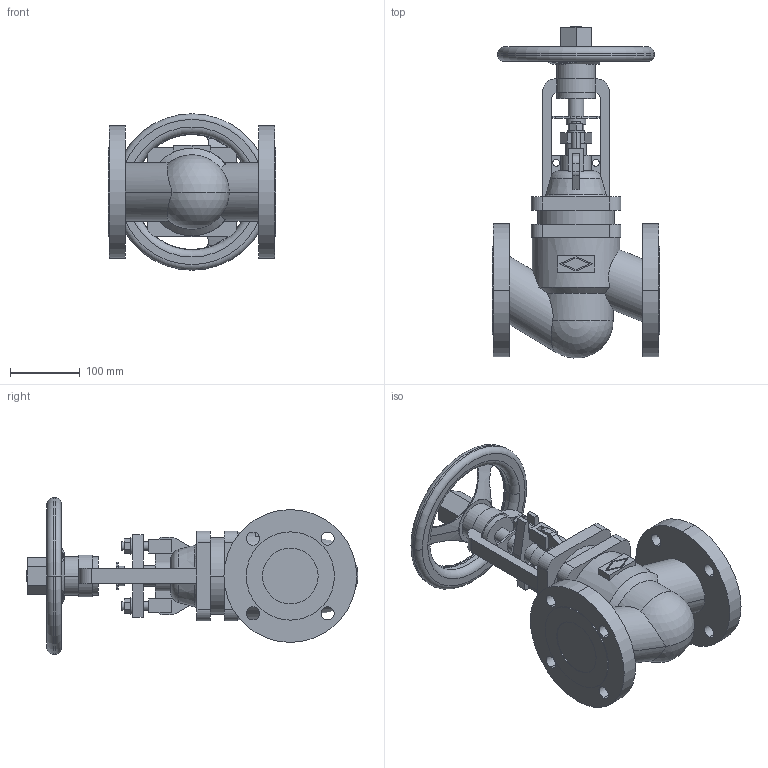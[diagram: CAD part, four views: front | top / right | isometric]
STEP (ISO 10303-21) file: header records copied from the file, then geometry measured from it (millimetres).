
FILE_DESCRIPTION(('OneSpaceDesigner STEP Export'),'2;1');
FILE_NAME('c000004208.stp','2010-04-30T 8:20:06',(''),(''),'OneSpace Designer STEP processor for AP214 (Solid Model)','OneSpace Modeling 15.50B 03-Nov-2007 (C) CoCreate Software GmbH','');
FILE_SCHEMA(('AUTOMOTIVE_DESIGN { 1 0 10303 214 1 1 1 1 }'));
Length unit declared in the file: millimetre
Products named in the file (1): 1
Bounding box: 241 x 477.65 x 225 mm (x, y, z)
Volume: 5373817 mm3; surface area: 435545.4 mm2
Topology: 1 solids, 1 shells, 304 faces, 817 edges, 537 vertices
Faces by surface type: plane 148, cylinder 124, torus 20, cone 10, sphere 2
Entity records: 12363 total; most frequent: CARTESIAN_POINT 2696, ORIENTED_EDGE 1630, DIRECTION 1326, EDGE_CURVE 815, VERTEX_POINT 537, AXIS2_PLACEMENT_3D 452, VECTOR 422, LINE 422
